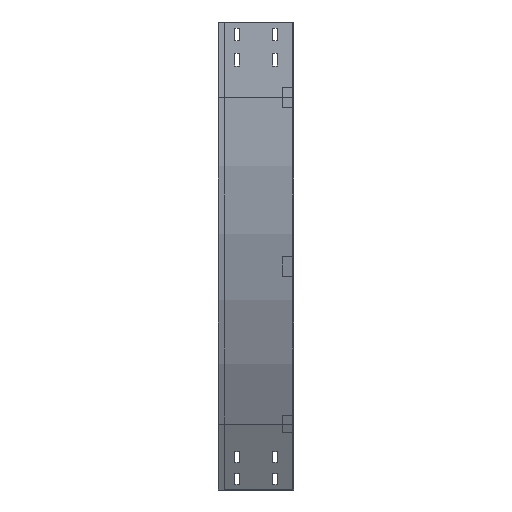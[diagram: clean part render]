
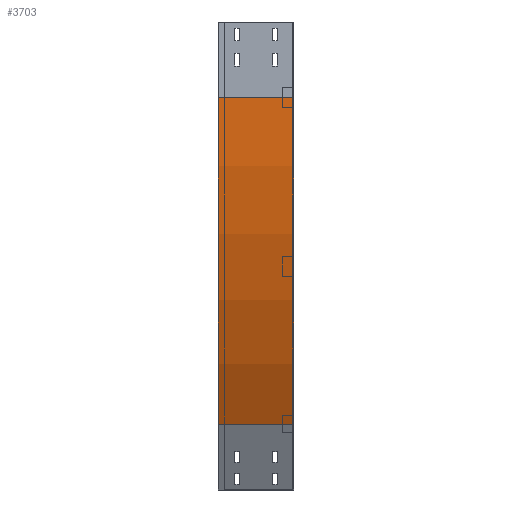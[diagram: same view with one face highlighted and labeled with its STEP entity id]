
A CAD part, left-side view. The second image highlights one B-rep face of the part: STEP entity #3703.
In plain terms, the highlighted cylindrical face has radius 1300 mm (diameter 2600 mm), a partial arc.
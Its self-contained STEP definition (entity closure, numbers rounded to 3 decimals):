
#87 = CARTESIAN_POINT ( 'NONE',  ( 174.167, 150., -800. ) ) ;
#114 = VERTEX_POINT ( 'NONE', #1648 ) ;
#163 = ORIENTED_EDGE ( 'NONE', *, *, #3340, .T. ) ;
#167 = EDGE_CURVE ( 'NONE', #114, #3404, #2677, .T. ) ;
#273 = CYLINDRICAL_SURFACE ( 'NONE', #3573, 1300. ) ;
#327 = ORIENTED_EDGE ( 'NONE', *, *, #450, .T. ) ;
#450 = EDGE_CURVE ( 'NONE', #2611, #3079, #1195, .T. ) ;
#461 = ORIENTED_EDGE ( 'NONE', *, *, #167, .F. ) ;
#497 = DIRECTION ( 'NONE',  ( 0., -1., 0. ) ) ;
#549 = EDGE_LOOP ( 'NONE', ( #461, #1248, #327, #163 ) ) ;
#557 = CARTESIAN_POINT ( 'NONE',  ( 1300., 0., -150. ) ) ;
#572 = AXIS2_PLACEMENT_3D ( 'NONE', #557, #497, #3821 ) ;
#842 = DIRECTION ( 'NONE',  ( 0., 0., -1. ) ) ;
#863 = FACE_OUTER_BOUND ( 'NONE', #549, .T. ) ;
#960 = DIRECTION ( 'NONE',  ( 0., -1., 0. ) ) ;
#1071 = VECTOR ( 'NONE', #960, 1000. ) ;
#1195 = CIRCLE ( 'NONE', #3360, 1300. ) ;
#1248 = ORIENTED_EDGE ( 'NONE', *, *, #3501, .F. ) ;
#1336 = DIRECTION ( 'NONE',  ( -1., 0., 0. ) ) ;
#1648 = CARTESIAN_POINT ( 'NONE',  ( 0., 0., -150. ) ) ;
#1814 = CARTESIAN_POINT ( 'NONE',  ( 174.167, 0., -800. ) ) ;
#2088 = VECTOR ( 'NONE', #2555, 1000. ) ;
#2125 = CARTESIAN_POINT ( 'NONE',  ( 174.167, 0., -800. ) ) ;
#2145 = LINE ( 'NONE', #2125, #1071 ) ;
#2246 = DIRECTION ( 'NONE',  ( 0., -1., 0. ) ) ;
#2319 = DIRECTION ( 'NONE',  ( 0., -1., 0. ) ) ;
#2555 = DIRECTION ( 'NONE',  ( 0., -1., 0. ) ) ;
#2575 = LINE ( 'NONE', #3386, #2088 ) ;
#2611 = VERTEX_POINT ( 'NONE', #2638 ) ;
#2638 = CARTESIAN_POINT ( 'NONE',  ( 0., 150., -150. ) ) ;
#2677 = CIRCLE ( 'NONE', #572, 1300. ) ;
#3079 = VERTEX_POINT ( 'NONE', #87 ) ;
#3340 = EDGE_CURVE ( 'NONE', #3079, #3404, #2145, .T. ) ;
#3360 = AXIS2_PLACEMENT_3D ( 'NONE', #3370, #2246, #1336 ) ;
#3370 = CARTESIAN_POINT ( 'NONE',  ( 1300., 150., -150. ) ) ;
#3386 = CARTESIAN_POINT ( 'NONE',  ( 0., 0., -150. ) ) ;
#3404 = VERTEX_POINT ( 'NONE', #1814 ) ;
#3501 = EDGE_CURVE ( 'NONE', #2611, #114, #2575, .T. ) ;
#3573 = AXIS2_PLACEMENT_3D ( 'NONE', #3836, #2319, #842 ) ;
#3703 = ADVANCED_FACE ( 'NONE', ( #863 ), #273, .T. ) ;
#3821 = DIRECTION ( 'NONE',  ( -1., 0., 0. ) ) ;
#3836 = CARTESIAN_POINT ( 'NONE',  ( 1300., 0., -150. ) ) ;
